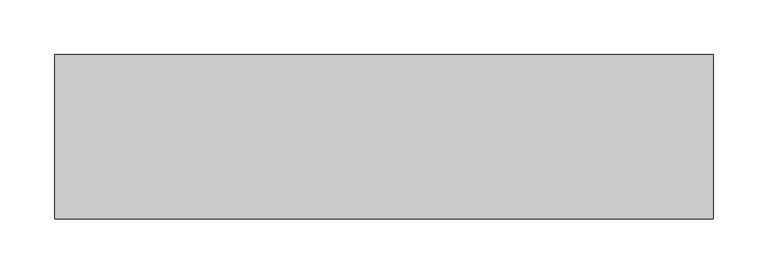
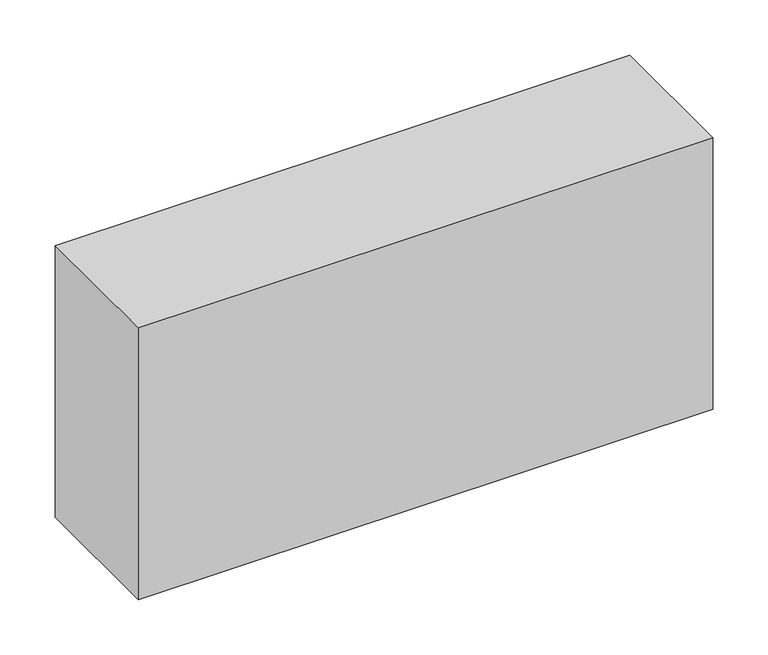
"""IFC4 building model written with IfcOpenShell, lengths in millimetres: proxy geometry, Módulo de Vedação de Concreto Celular - Celucon : MVCC 15x30x60cm (L x A x C)."""

from ifc_helpers import new_model, si_unit, origin, origin_with_axes, place, context, project, spatial, polyline, outline, extrude, source, transform, mapped, element, save


def generic_models_90d30efc(model_context):
    return source(origin(), model_context, "Body", "SweptSolid", [
        extrude(outline(polyline([(300.0, 75.0), (300.0, -75.0), (-300.0, -75.0), (-300.0, 75.0), (300.0, 75.0)])), origin_with_axes(), (0.0, 0.0, 1.0), 300.0),
    ])


if __name__ == "__main__":
    model = new_model("IFC4")
    model_context = context("Model", 3, world=origin())
    ifc_project = project(units=[si_unit("LENGTHUNIT", "METRE", prefix="MILLI")], contexts=[model_context])
    site = spatial("IfcSite", under=ifc_project)
    building = spatial("IfcBuilding", under=site)
    placement = place(None, origin())
    generic_models_shape = generic_models_90d30efc(model_context)
    element("IfcBuildingElementProxy", 1, Name="Módulo de Vedação de Concreto Celular - Celucon : MVCC 15x30x60cm (L x A x C)", ObjectType="Módulo de Vedação de Concreto Celular - Celucon : MVCC 15x30x60cm (L x A x C)", at=placement, inside=building, context=model_context, shape_type="MappedRepresentation", body=[
        mapped(generic_models_shape, transform((0.0, 0.0, 0.0), x_axis=(1.0, 0.0, 0.0), y_axis=(0.0, 1.0, 0.0), z_axis=(0.0, 0.0, 1.0))),
    ])
    save(model, "model.ifc")
